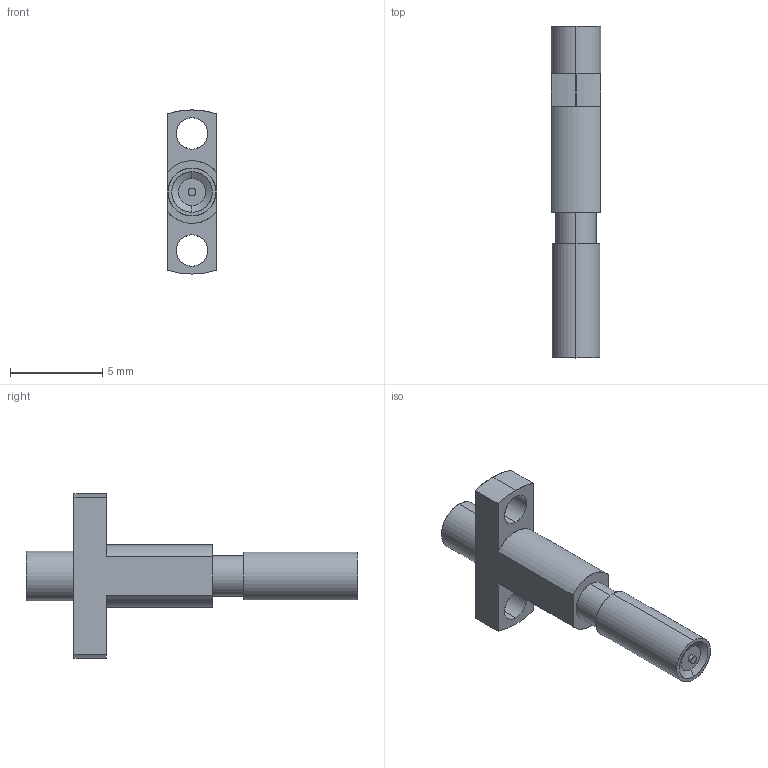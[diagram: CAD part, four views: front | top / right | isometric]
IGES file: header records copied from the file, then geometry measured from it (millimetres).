
Start section: SolidWorks IGES file using analytic representation for surfaces
Global section: file name: C:\3dwork\watanabe\20230123_WEB—pTOOL\91145\SW\COPY2\91145 MHF 7 RECEPTACLE HIGH CYCLE F N30 SMPM ADAPTER IGES R0 ALL.IGS; native system: SolidWorks 2020; preprocessor: SolidWorks 2020; author: E1480; date: 230306.162505; units: millimetre
Bounding box: 2.7 x 18 x 8.9 mm (x, y, z)
Surface area: 250.5 mm2 (no closed solid volume)
Topology: 0 solids, 0 shells, 41 faces, 606 edges, 604 vertices
Faces by surface type: revolution 28, bspline 13
